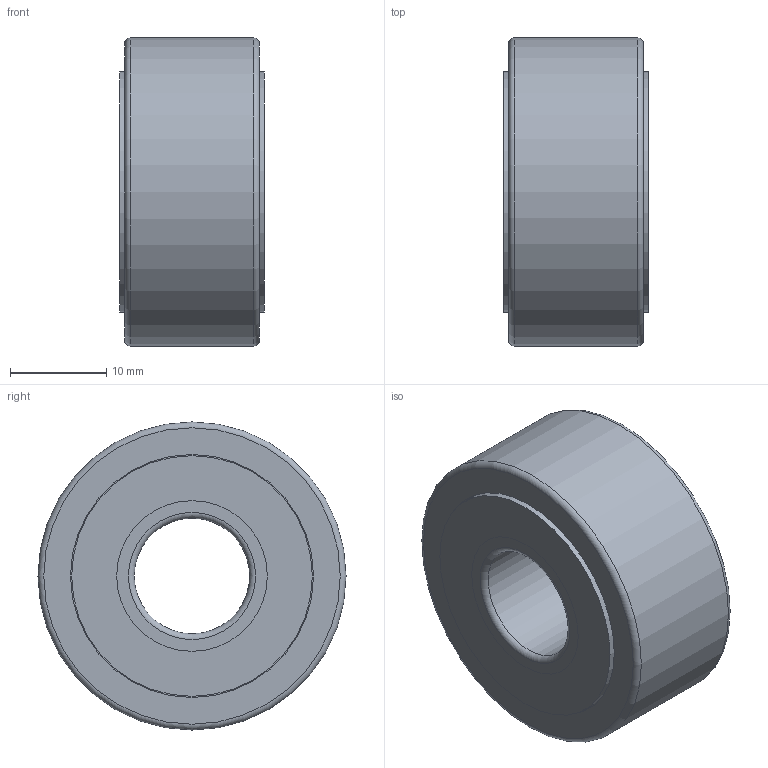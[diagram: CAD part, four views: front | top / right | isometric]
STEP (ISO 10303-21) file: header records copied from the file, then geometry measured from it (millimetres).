
FILE_DESCRIPTION(/* description */ (''),/* implementation_level */ '2;1');
FILE_NAME(/* name */ 'C:\Dokumenty D.R\Ložiská 3D\MODELY\Ihlove loziska\NATV-PP\NATV-PP--\NATV12-PP.stp',/* time_stamp */ '2018-06-05T14:36:05+02:00',/* author */ ('OUREHANEKD'),/* organization */ (''),/* preprocessor_version */ 'ST-DEVELOPER v16.13',/* originating_system */ 'Autodesk Inventor 2018',/* authorisation */ '');
FILE_SCHEMA (('AUTOMOTIVE_DESIGN { 1 0 10303 214 3 1 1 }'));
Length unit declared in the file: millimetre
Products named in the file (6): NATV12-PP; NATV12-PP-01; NATV12-PP-shield; NATV12-PP-NBR; NATV12-PP-needle; NATV12-PP-02
Assembly tree (44 placements, depth 2):
  NATV12-PP
    NATV12-PP-01
    NATV12-PP-shield
    NATV12-PP-NBR
    NATV12-PP-needle  x40
    NATV12-PP-02
Bounding box: 15 x 32 x 32 mm (x, y, z)
Volume: 9613 mm3; surface area: 8365.5 mm2
Topology: 46 solids, 46 shells, 161 faces, 185 edges, 122 vertices
Faces by surface type: plane 98, cylinder 59, torus 4
Full cylindrical faces by diameter (mm): 1.008 x40, 1.26 x1, 12 x1, 15.64 x4, 17.04 x1, 19.056 x1, 25 x4, 25.24 x2, 26.12 x4, 32 x1
Entity records: 1499 total; most frequent: DIRECTION 272, CARTESIAN_POINT 248, AXIS2_PLACEMENT_3D 136, EDGE_LOOP 88, ORIENTED_EDGE 88, PRODUCT_DEFINITION_SHAPE 50, ITEM_DEFINED_TRANSFORMATION 44, CONTEXT_DEPENDENT_SHAPE_REPRESENTATION 44
